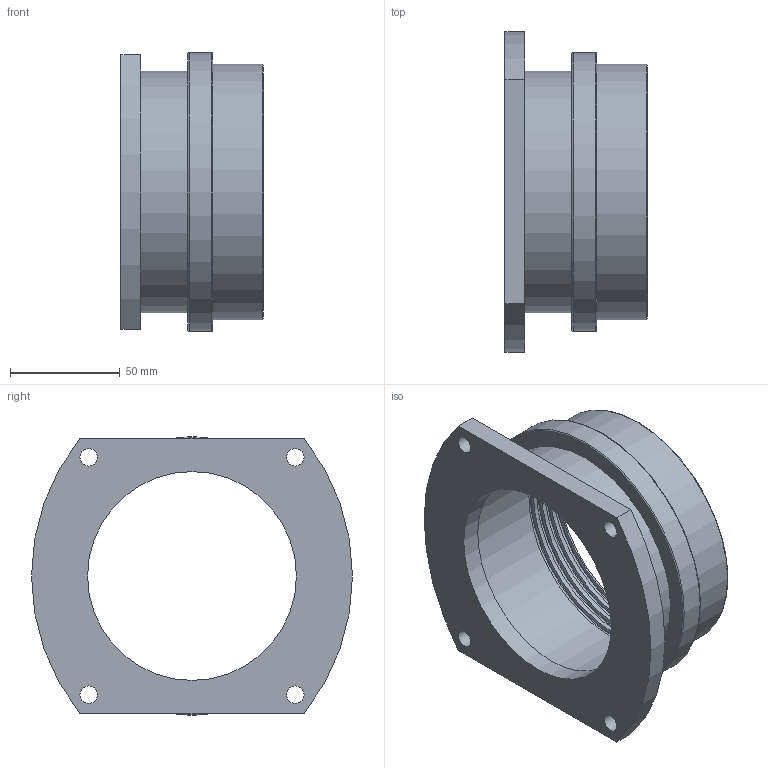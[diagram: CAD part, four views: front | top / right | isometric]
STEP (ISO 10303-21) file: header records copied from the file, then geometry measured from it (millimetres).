
FILE_DESCRIPTION( ( 'STEP AP214' ), '1' );
FILE_NAME( 'e:/temp/worker_12/temp/exporttempdir_1748_122_LEytw/format_0/TNOC_IP65-G95B.stp', '2021-04-13T14:56:25', ( 'License CC BY-ND 4.0' ), ( 'CADENAS' ), ' ', 'PARTsolutions', ' ' );
FILE_SCHEMA( ( 'AUTOMOTIVE_DESIGN { 1 0 10303 214 1 1 1 1 }' ) );
Length unit declared in the file: millimetre
Products named in the file (1): _TNOC_IP65-G95B
Bounding box: 64.7 x 146 x 126.8 mm (x, y, z)
Volume: 203351.5 mm3; surface area: 73533.6 mm2
Topology: 1 solids, 1 shells, 46 faces, 100 edges, 60 vertices
Faces by surface type: cylinder 19, torus 11, cone 8, plane 8
Full cylindrical faces by diameter (mm): 8 x4, 95 x1, 103 x5, 106 x4, 110 x1, 116.14 x1, 126.8 x1
Entity records: 1414 total; most frequent: DIRECTION 200, CARTESIAN_POINT 157, ORIENTED_EDGE 114, AXIS2_PLACEMENT_3D 96, EDGE_LOOP 96, FACE_OUTER_BOUND 74, EDGE_CURVE 57, VERTEX_POINT 53
